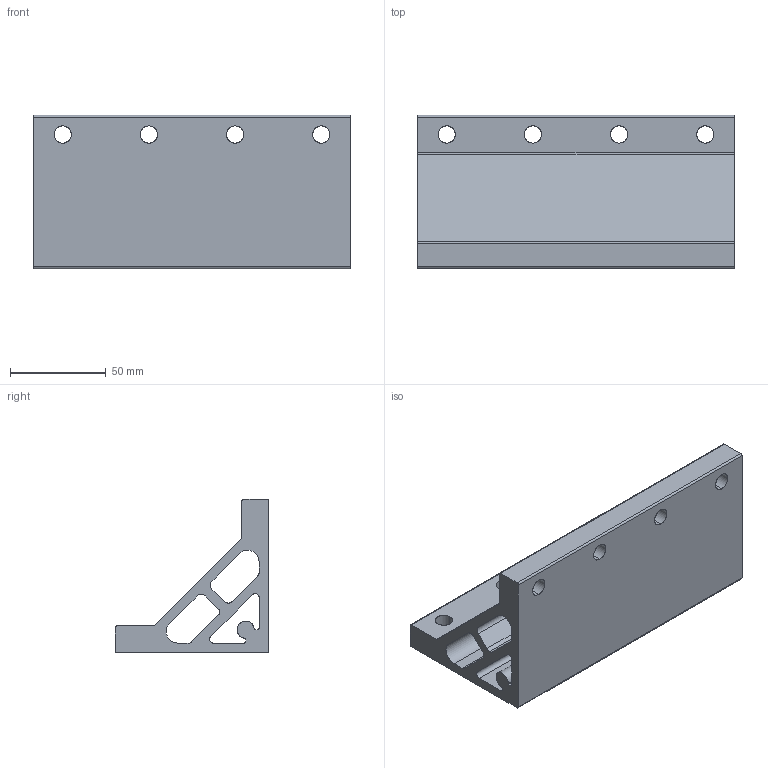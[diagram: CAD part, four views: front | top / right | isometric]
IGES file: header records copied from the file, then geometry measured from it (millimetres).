
Start section: SolidWorks IGES file using analytic representation for surfaces
Global section: file name: C:\Documents and Settings\Administrator\デスクトップ\指定保存後4回目\SolidWorks\SF\SF40・45\Bracket\ハードブラケットG90180\SFJ-N49.IGS,41HSolidWorks 2006 by; native system: SolidWorks Corporation; preprocessor: SolidWorks 2006 by SolidWorks Corporation; author: Administrator; date: 061215.174457; units: millimetre
Bounding box: 165 x 80 x 80 mm (x, y, z)
Surface area: 96630.4 mm2 (no closed solid volume)
Topology: 0 solids, 0 shells, 63 faces, 1166 edges, 1166 vertices
Faces by surface type: revolution 41, bspline 22
